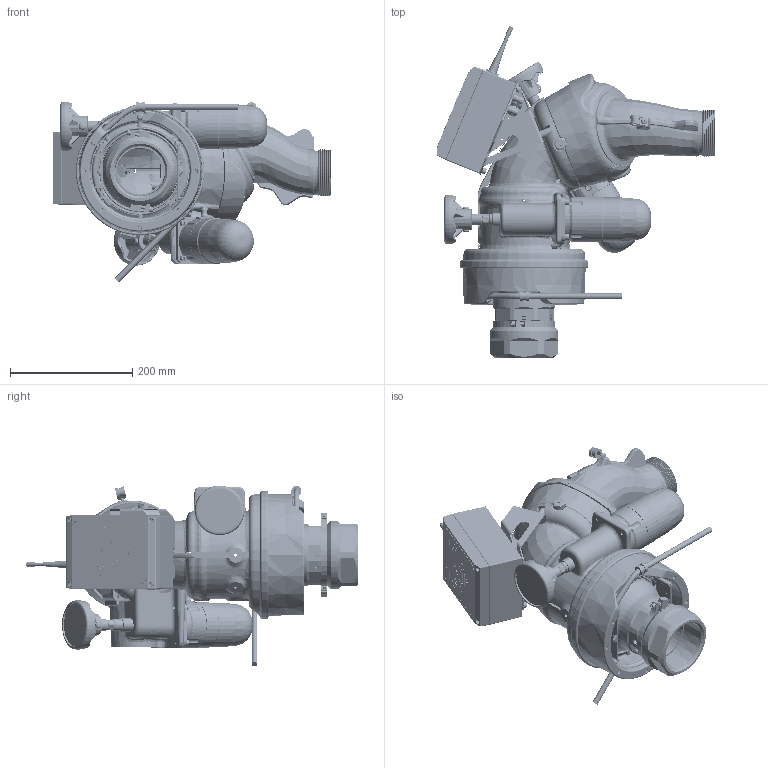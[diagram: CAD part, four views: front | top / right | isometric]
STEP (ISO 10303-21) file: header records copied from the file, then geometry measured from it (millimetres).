
FILE_DESCRIPTION (( 'STEP AP203' ), '1' );
FILE_NAME ('Y4-E65A.STEP', '2014-09-11T16:28:23', ( '' ), ( '' ), 'SwSTEP 2.0', 'SolidWorks 2014', '' );
FILE_SCHEMA (( 'CONFIG_CONTROL_DESIGN' ));
Products named in the file (1): Y4-E65A
Bounding box: 456.15 x 543.24 x 295.8 mm (x, y, z)
Surface area: 988752.5 mm2 (no closed solid volume)
Topology: 0 solids, 252 shells, 3006 faces, 12771 edges, 9783 vertices
Faces by surface type: plane 935, cylinder 752, bspline 623, torus 357, cone 311, sphere 28
Entity records: 202962 total; most frequent: CARTESIAN_POINT 108840, ORIENTED_EDGE 18424, DIRECTION 16950, EDGE_CURVE 12737, VERTEX_POINT 9773, AXIS2_PLACEMENT_3D 5759, LINE 5432, VECTOR 5432
